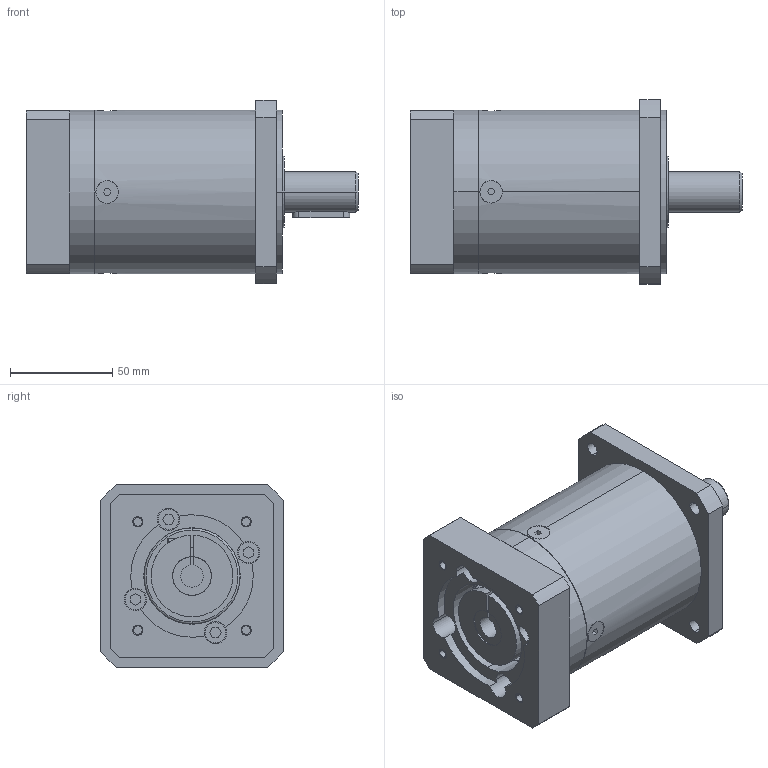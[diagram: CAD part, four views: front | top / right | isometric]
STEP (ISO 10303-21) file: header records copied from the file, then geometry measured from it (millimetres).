
FILE_DESCRIPTION((''),'2;1');
FILE_NAME('MB_PLE_MASTER','2019-11-07T',('agw'),(''),'CREO PARAMETRIC BY PTC INC, 2015290','CREO PARAMETRIC BY PTC INC, 2015290','');
FILE_SCHEMA(('AUTOMOTIVE_DESIGN { 1 0 10303 214 1 1 1 1 }'));
Length unit declared in the file: millimetre
Products named in the file (1): MB_PLE_MASTER
Bounding box: 162.5 x 90 x 90 mm (x, y, z)
Volume: 667165.5 mm3; surface area: 75887.3 mm2
Topology: 1 solids, 6 shells, 250 faces, 603 edges, 395 vertices
Faces by surface type: plane 130, cylinder 108, cone 6, torus 6
Entity records: 8431 total; most frequent: CARTESIAN_POINT 1439, DIRECTION 1333, ORIENTED_EDGE 1182, EDGE_CURVE 601, AXIS2_PLACEMENT_3D 492, VERTEX_POINT 395, VECTOR 349, LINE 349
